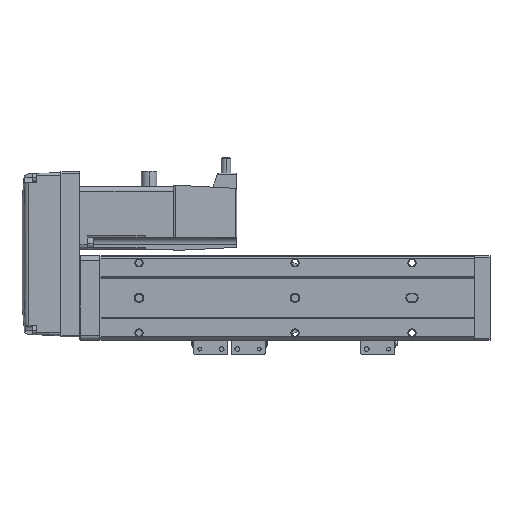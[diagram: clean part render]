
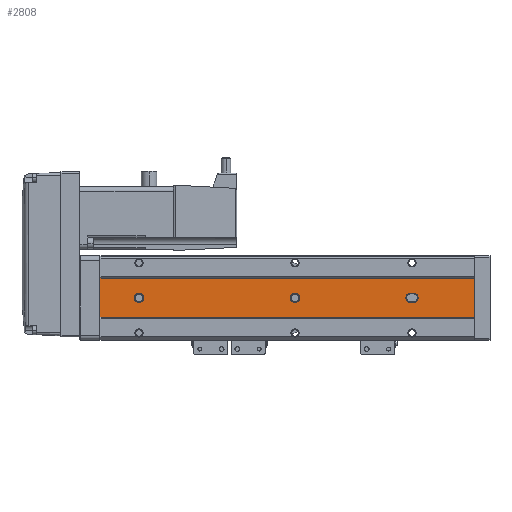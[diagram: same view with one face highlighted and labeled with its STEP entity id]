
A CAD part, front view. The second image highlights one B-rep face of the part: STEP entity #2808.
In plain terms, the highlighted planar face has unit normal (0, -1, 0).
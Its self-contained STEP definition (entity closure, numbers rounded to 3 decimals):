
#129 = EDGE_LOOP ( 'NONE', ( #15310, #14098 ) ) ;
#293 = CARTESIAN_POINT ( 'NONE',  ( -45.681, -208.497, 240. ) ) ;
#359 = DIRECTION ( 'NONE',  ( 0., 1., 0. ) ) ;
#1075 = FACE_BOUND ( 'NONE', #32799, .T. ) ;
#1146 = EDGE_CURVE ( 'NONE', #12060, #18426, #20186, .T. ) ;
#1213 = AXIS2_PLACEMENT_3D ( 'NONE', #28898, #23340, #31799 ) ;
#1545 = VERTEX_POINT ( 'NONE', #29116 ) ;
#1843 = EDGE_CURVE ( 'NONE', #11898, #26955, #24023, .T. ) ;
#2372 = CARTESIAN_POINT ( 'NONE',  ( -58.181, -208.497, 115. ) ) ;
#2644 = DIRECTION ( 'NONE',  ( 0., 0., 1. ) ) ;
#2808 = ADVANCED_FACE ( 'NONE', ( #35240, #35698, #1075, #14004 ), #28904, .F. ) ;
#2880 = CARTESIAN_POINT ( 'NONE',  ( -58.181, -208.497, 41. ) ) ;
#3390 = CIRCLE ( 'NONE', #1213, 3. ) ;
#3737 = EDGE_CURVE ( 'NONE', #15968, #25067, #30042, .T. ) ;
#4159 = DIRECTION ( 'NONE',  ( 0., 0., 1. ) ) ;
#4820 = DIRECTION ( 'NONE',  ( 0., 0., -1. ) ) ;
#4943 = AXIS2_PLACEMENT_3D ( 'NONE', #2372, #16230, #27268 ) ;
#5048 = CARTESIAN_POINT ( 'NONE',  ( -55.181, -208.497, 240. ) ) ;
#5324 = DIRECTION ( 'NONE',  ( 0., 0., 1. ) ) ;
#5440 = EDGE_CURVE ( 'NONE', #26308, #11898, #23410, .T. ) ;
#5614 = DIRECTION ( 'NONE',  ( 0., 0., 1. ) ) ;
#5638 = CARTESIAN_POINT ( 'NONE',  ( -58.181, -208.497, 112. ) ) ;
#5758 = CARTESIAN_POINT ( 'NONE',  ( -55.181, -208.497, 41. ) ) ;
#5931 = LINE ( 'NONE', #11798, #15429 ) ;
#6044 = LINE ( 'NONE', #5048, #29401 ) ;
#6125 = CARTESIAN_POINT ( 'NONE',  ( -70.681, -208.497, 0. ) ) ;
#6411 = EDGE_CURVE ( 'NONE', #18862, #31604, #6044, .T. ) ;
#6713 = AXIS2_PLACEMENT_3D ( 'NONE', #35474, #10430, #5324 ) ;
#6787 = DIRECTION ( 'NONE',  ( 1., 0., 0. ) ) ;
#7078 = CARTESIAN_POINT ( 'NONE',  ( -58.181, -208.497, 39. ) ) ;
#7540 = VERTEX_POINT ( 'NONE', #293 ) ;
#7829 = CARTESIAN_POINT ( 'NONE',  ( -58.181, -208.497, 36. ) ) ;
#7965 = ORIENTED_EDGE ( 'NONE', *, *, #30564, .T. ) ;
#8363 = VECTOR ( 'NONE', #27756, 1000. ) ;
#8511 = CARTESIAN_POINT ( 'NONE',  ( -61.181, -208.497, 240. ) ) ;
#8661 = EDGE_CURVE ( 'NONE', #26955, #18862, #24315, .T. ) ;
#8847 = CARTESIAN_POINT ( 'NONE',  ( -58.181, -208.497, 212. ) ) ;
#9319 = CARTESIAN_POINT ( 'NONE',  ( -70.681, -208.497, 240. ) ) ;
#9326 = EDGE_CURVE ( 'NONE', #31604, #26308, #29403, .T. ) ;
#9337 = VERTEX_POINT ( 'NONE', #34759 ) ;
#9362 = ORIENTED_EDGE ( 'NONE', *, *, #20072, .T. ) ;
#9770 = VECTOR ( 'NONE', #5614, 1000. ) ;
#9788 = ORIENTED_EDGE ( 'NONE', *, *, #8661, .T. ) ;
#10430 = DIRECTION ( 'NONE',  ( 0., 1., 0. ) ) ;
#10633 = DIRECTION ( 'NONE',  ( 0., 1., 0. ) ) ;
#10852 = CARTESIAN_POINT ( 'NONE',  ( -55.181, -208.497, 39. ) ) ;
#10884 = AXIS2_PLACEMENT_3D ( 'NONE', #7078, #31969, #4159 ) ;
#11012 = LINE ( 'NONE', #9319, #14012 ) ;
#11362 = CARTESIAN_POINT ( 'NONE',  ( -58.181, -208.497, 218. ) ) ;
#11798 = CARTESIAN_POINT ( 'NONE',  ( -45.681, -208.497, 240. ) ) ;
#11828 = AXIS2_PLACEMENT_3D ( 'NONE', #15114, #10633, #30110 ) ;
#11898 = VERTEX_POINT ( 'NONE', #24580 ) ;
#12060 = VERTEX_POINT ( 'NONE', #8847 ) ;
#13434 = CIRCLE ( 'NONE', #4943, 3. ) ;
#13665 = DIRECTION ( 'NONE',  ( 0., 1., 0. ) ) ;
#14004 = FACE_OUTER_BOUND ( 'NONE', #22305, .T. ) ;
#14012 = VECTOR ( 'NONE', #6787, 1000. ) ;
#14098 = ORIENTED_EDGE ( 'NONE', *, *, #14303, .T. ) ;
#14303 = EDGE_CURVE ( 'NONE', #18426, #12060, #28218, .T. ) ;
#15055 = DIRECTION ( 'NONE',  ( 0., 0., -1. ) ) ;
#15114 = CARTESIAN_POINT ( 'NONE',  ( -70.681, -208.497, 240. ) ) ;
#15284 = AXIS2_PLACEMENT_3D ( 'NONE', #2880, #359, #2644 ) ;
#15310 = ORIENTED_EDGE ( 'NONE', *, *, #1146, .T. ) ;
#15429 = VECTOR ( 'NONE', #15055, 1000. ) ;
#15663 = DIRECTION ( 'NONE',  ( 0., 0., -1. ) ) ;
#15778 = EDGE_CURVE ( 'NONE', #15968, #7540, #11012, .T. ) ;
#15968 = VERTEX_POINT ( 'NONE', #32398 ) ;
#16165 = VECTOR ( 'NONE', #15663, 1000. ) ;
#16230 = DIRECTION ( 'NONE',  ( 0., 1., 0. ) ) ;
#16799 = DIRECTION ( 'NONE',  ( 0., 0., 1. ) ) ;
#18426 = VERTEX_POINT ( 'NONE', #11362 ) ;
#18593 = ORIENTED_EDGE ( 'NONE', *, *, #20597, .F. ) ;
#18862 = VERTEX_POINT ( 'NONE', #5758 ) ;
#19345 = CARTESIAN_POINT ( 'NONE',  ( -58.181, -208.497, 215. ) ) ;
#20072 = EDGE_CURVE ( 'NONE', #26408, #1545, #3390, .T. ) ;
#20186 = CIRCLE ( 'NONE', #6713, 3. ) ;
#20597 = EDGE_CURVE ( 'NONE', #7540, #9337, #5931, .T. ) ;
#20721 = AXIS2_PLACEMENT_3D ( 'NONE', #35599, #13665, #35717 ) ;
#21894 = AXIS2_PLACEMENT_3D ( 'NONE', #19345, #27822, #16799 ) ;
#22305 = EDGE_LOOP ( 'NONE', ( #7965, #18593, #28206, #27637 ) ) ;
#23340 = DIRECTION ( 'NONE',  ( 0., 1., 0. ) ) ;
#23410 = CIRCLE ( 'NONE', #20721, 3. ) ;
#23944 = LINE ( 'NONE', #6125, #8363 ) ;
#24023 = LINE ( 'NONE', #8511, #9770 ) ;
#24107 = ORIENTED_EDGE ( 'NONE', *, *, #32032, .T. ) ;
#24315 = CIRCLE ( 'NONE', #15284, 3. ) ;
#24580 = CARTESIAN_POINT ( 'NONE',  ( -61.181, -208.497, 39. ) ) ;
#25067 = VERTEX_POINT ( 'NONE', #32514 ) ;
#26308 = VERTEX_POINT ( 'NONE', #7829 ) ;
#26408 = VERTEX_POINT ( 'NONE', #5638 ) ;
#26955 = VERTEX_POINT ( 'NONE', #33659 ) ;
#27246 = ORIENTED_EDGE ( 'NONE', *, *, #1843, .T. ) ;
#27268 = DIRECTION ( 'NONE',  ( 0., 0., 1. ) ) ;
#27498 = EDGE_LOOP ( 'NONE', ( #9362, #24107 ) ) ;
#27637 = ORIENTED_EDGE ( 'NONE', *, *, #3737, .T. ) ;
#27756 = DIRECTION ( 'NONE',  ( 1., 0., 0. ) ) ;
#27822 = DIRECTION ( 'NONE',  ( 0., 1., 0. ) ) ;
#28206 = ORIENTED_EDGE ( 'NONE', *, *, #15778, .F. ) ;
#28218 = CIRCLE ( 'NONE', #21894, 3. ) ;
#28898 = CARTESIAN_POINT ( 'NONE',  ( -58.181, -208.497, 115. ) ) ;
#28904 = PLANE ( 'NONE',  #11828 ) ;
#29116 = CARTESIAN_POINT ( 'NONE',  ( -58.181, -208.497, 118. ) ) ;
#29401 = VECTOR ( 'NONE', #4820, 1000. ) ;
#29403 = CIRCLE ( 'NONE', #10884, 3. ) ;
#29927 = ORIENTED_EDGE ( 'NONE', *, *, #6411, .T. ) ;
#30042 = LINE ( 'NONE', #32240, #16165 ) ;
#30110 = DIRECTION ( 'NONE',  ( 0., 0., 1. ) ) ;
#30564 = EDGE_CURVE ( 'NONE', #25067, #9337, #23944, .T. ) ;
#31604 = VERTEX_POINT ( 'NONE', #10852 ) ;
#31799 = DIRECTION ( 'NONE',  ( 0., 0., 1. ) ) ;
#31969 = DIRECTION ( 'NONE',  ( 0., 1., 0. ) ) ;
#32032 = EDGE_CURVE ( 'NONE', #1545, #26408, #13434, .T. ) ;
#32240 = CARTESIAN_POINT ( 'NONE',  ( -70.681, -208.497, 240. ) ) ;
#32398 = CARTESIAN_POINT ( 'NONE',  ( -70.681, -208.497, 240. ) ) ;
#32514 = CARTESIAN_POINT ( 'NONE',  ( -70.681, -208.497, 0. ) ) ;
#32799 = EDGE_LOOP ( 'NONE', ( #29927, #32931, #34916, #27246, #9788 ) ) ;
#32931 = ORIENTED_EDGE ( 'NONE', *, *, #9326, .T. ) ;
#33659 = CARTESIAN_POINT ( 'NONE',  ( -61.181, -208.497, 41. ) ) ;
#34759 = CARTESIAN_POINT ( 'NONE',  ( -45.681, -208.497, 0. ) ) ;
#34916 = ORIENTED_EDGE ( 'NONE', *, *, #5440, .T. ) ;
#35240 = FACE_BOUND ( 'NONE', #129, .T. ) ;
#35474 = CARTESIAN_POINT ( 'NONE',  ( -58.181, -208.497, 215. ) ) ;
#35599 = CARTESIAN_POINT ( 'NONE',  ( -58.181, -208.497, 39. ) ) ;
#35698 = FACE_BOUND ( 'NONE', #27498, .T. ) ;
#35717 = DIRECTION ( 'NONE',  ( 0., 0., 1. ) ) ;
